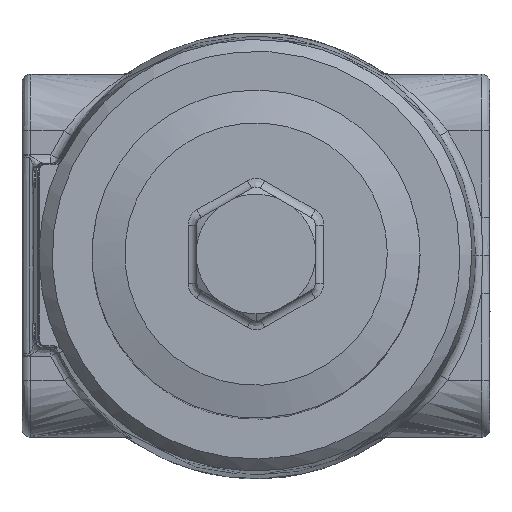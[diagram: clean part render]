
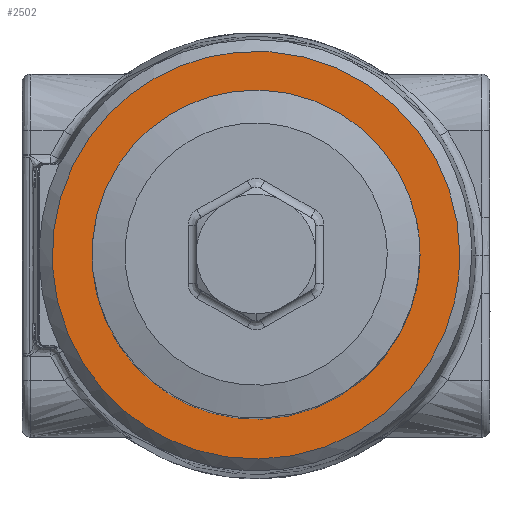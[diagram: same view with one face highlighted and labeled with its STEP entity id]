
A CAD part, top view. The second image highlights one B-rep face of the part: STEP entity #2502.
In plain terms, the highlighted free-form (B-spline) face has degree [1, 1] with [2, 2] control points.
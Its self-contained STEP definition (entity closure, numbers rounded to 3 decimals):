
#2444=CARTESIAN_POINT('V15',(29.867,-3.957,
   66.0));
#2445=VERTEX_POINT('V15',#2444);
#2446=CARTESIAN_POINT('E24',(29.867,-3.957,
   66.0));
#2447=CARTESIAN_POINT('E24',(29.867,60.995,
   66.0));
#2448=CARTESIAN_POINT('E24',(-26.383,28.519,
   66.0));
#2449=CARTESIAN_POINT('E24',(-82.633,-3.957,
   66.0));
#2450=CARTESIAN_POINT('E24',(-26.383,-36.433,
   66.0));
#2451=CARTESIAN_POINT('E24',(29.867,-68.909,
   66.0));
#2452=CARTESIAN_POINT('E24',(29.867,-3.957,
   66.0));
#2460=(BOUNDED_CURVE()B_SPLINE_CURVE(2,(#2446,#2447,#2448,#2449,
   #2450,#2451,#2452),.CIRCULAR_ARC.,.T.,.U.)
   B_SPLINE_CURVE_WITH_KNOTS((3,2,2,3),(0.0,0.333,
   0.667,1.0),.UNSPECIFIED.)CURVE()
   GEOMETRIC_REPRESENTATION_ITEM()RATIONAL_B_SPLINE_CURVE((1.0,
   0.5,1.0,0.5,1.0,0.5,1.0)
   )REPRESENTATION_ITEM('E24'));
#2461=EDGE_CURVE('E24',#2445,#2445,#2460,.T.);
#2473=CARTESIAN_POINT('F15',(-58.908,47.318,
   66.0));
#2474=CARTESIAN_POINT('F15',(43.642,47.318,
   66.0));
#2475=CARTESIAN_POINT('F15',(-58.908,-55.232,
   66.0));
#2476=CARTESIAN_POINT('F15',(43.642,-55.232,
   66.0));
#2477=QUASI_UNIFORM_SURFACE('F15',1,1,((#2473,#2475),(#2474,#2476))
,.PLANE_SURF.,.F.,.F.,.U.);
#2478=CARTESIAN_POINT('V17',(38.98,-3.957,
   66.0));
#2479=VERTEX_POINT('V17',#2478);
#2480=CARTESIAN_POINT('E27',(38.98,-3.957,
   66.0));
#2481=CARTESIAN_POINT('E27',(38.98,76.78,
   66.0));
#2482=CARTESIAN_POINT('E27',(-30.94,36.411,
   66.0));
#2483=CARTESIAN_POINT('E27',(-100.86,-3.957,
   66.0));
#2484=CARTESIAN_POINT('E27',(-30.94,-44.325,
   66.0));
#2485=CARTESIAN_POINT('E27',(38.98,-84.694,
   66.0));
#2486=CARTESIAN_POINT('E27',(38.98,-3.957,
   66.0));
#2494=(BOUNDED_CURVE()B_SPLINE_CURVE(2,(#2480,#2481,#2482,#2483,
   #2484,#2485,#2486),.CIRCULAR_ARC.,.T.,.U.)
   B_SPLINE_CURVE_WITH_KNOTS((3,2,2,3),(0.0,39.284,
   78.569,117.853),.UNSPECIFIED.)CURVE()
   GEOMETRIC_REPRESENTATION_ITEM()RATIONAL_B_SPLINE_CURVE((1.0,
   0.5,1.0,0.5,1.0,0.5,1.0)
   )REPRESENTATION_ITEM('E27'));
#2495=EDGE_CURVE('E27',#2479,#2479,#2494,.T.);
#2496=ORIENTED_EDGE('E27',*,*,#2495,.T.);
#2497=EDGE_LOOP('F15',(#2496));
#2498=FACE_OUTER_BOUND('F15',#2497,.T.);
#2499=ORIENTED_EDGE('E24',*,*,#2461,.F.);
#2500=EDGE_LOOP('F15',(#2499));
#2501=FACE_BOUND('F15',#2500,.T.);
#2502=ADVANCED_FACE('F15',(#2498,#2501),#2477,.F.);
